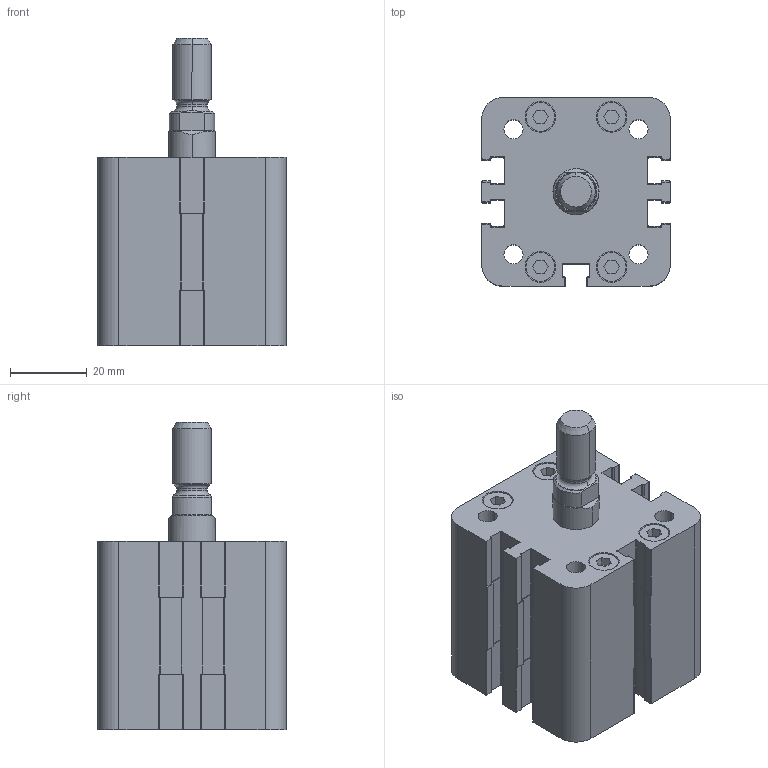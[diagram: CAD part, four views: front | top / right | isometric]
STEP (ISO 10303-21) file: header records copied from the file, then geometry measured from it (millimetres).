
FILE_DESCRIPTION (( 'STEP AP203' ), '1' );
FILE_NAME ('WDM0320005A.step', '2013-04-22T06:55:59', ( '' ), ( '' ), 'SwSTEP 2.0', 'SolidWorks 2012', '' );
FILE_SCHEMA (( 'CONFIG_CONTROL_DESIGN' ));
Length unit declared in the file: millimetre
Products named in the file (1): WDM0320005A
Bounding box: 49 x 49 x 80 mm (x, y, z)
Volume: 103956 mm3; surface area: 23579.8 mm2
Topology: 1 solids, 1 shells, 410 faces, 1120 edges, 742 vertices
Faces by surface type: plane 210, cylinder 184, cone 12, torus 4
Entity records: 13229 total; most frequent: CARTESIAN_POINT 2413, DIRECTION 2298, ORIENTED_EDGE 2240, EDGE_CURVE 1120, AXIS2_PLACEMENT_3D 791, VERTEX_POINT 742, VECTOR 716, LINE 716
